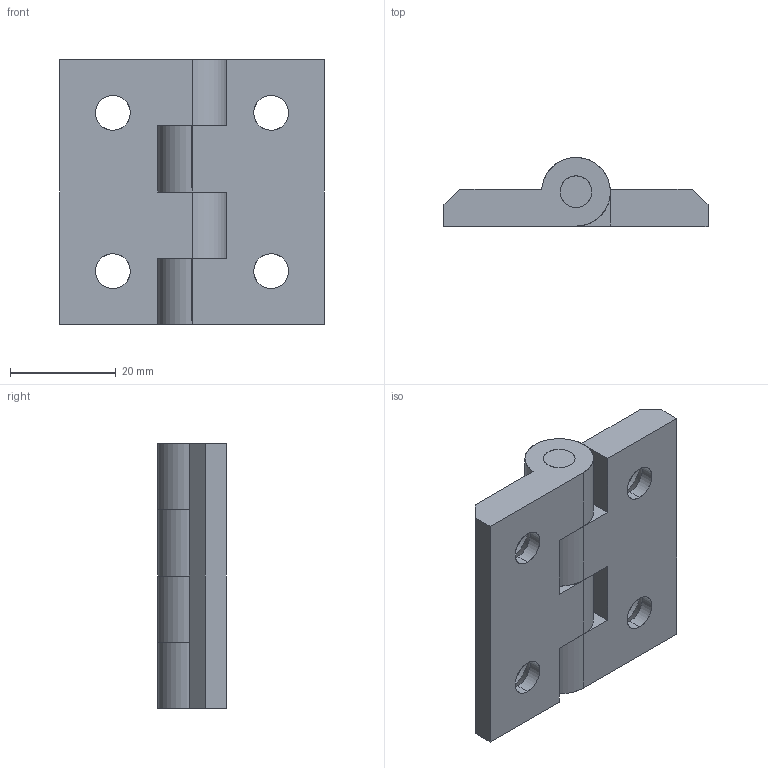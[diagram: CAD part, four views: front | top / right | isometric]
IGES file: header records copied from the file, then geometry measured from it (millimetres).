
Start section: SolidWorks IGES file using analytic representation for surfaces
Global section: file name: D:\LETROMEC CATALOGUE\Hinge\LIMA-HZC30X30-8\LIMA-HZC30X30.IGS; native system: SolidWorks 2013; preprocessor: SolidWorks 2013; author: User; date: 180315.205227; units: millimetre
Bounding box: 50 x 12.99 x 50 mm (x, y, z)
Surface area: 10045.4 mm2 (no closed solid volume)
Topology: 0 solids, 0 shells, 62 faces, 1080 edges, 1080 vertices
Faces by surface type: revolution 38, bspline 24
